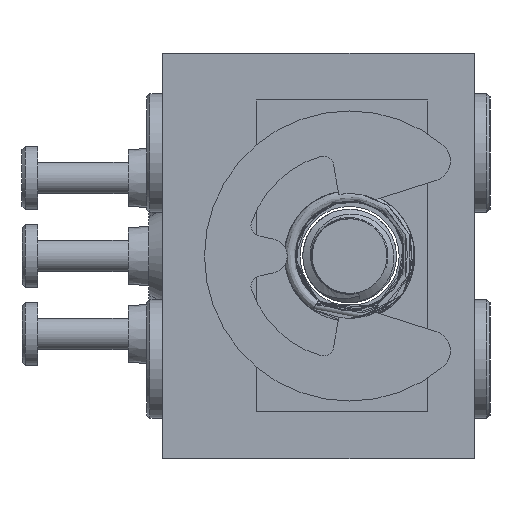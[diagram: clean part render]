
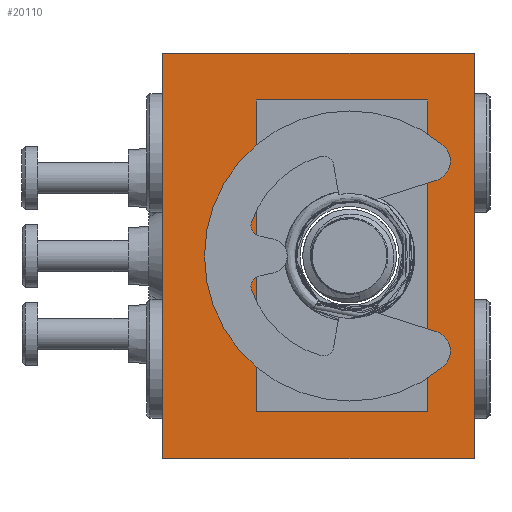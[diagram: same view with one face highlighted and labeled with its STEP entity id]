
A CAD part, left-side view. The second image highlights one B-rep face of the part: STEP entity #20110.
In plain terms, the highlighted planar face has unit normal (-1, 0, 0).
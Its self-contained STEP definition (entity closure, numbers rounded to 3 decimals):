
#83 = ORIENTED_EDGE ( 'NONE', *, *, #4930, .F. ) ;
#859 = ORIENTED_EDGE ( 'NONE', *, *, #24355, .F. ) ;
#909 = EDGE_CURVE ( 'NONE', #1685, #18141, #12219, .T. ) ;
#1685 = VERTEX_POINT ( 'NONE', #15033 ) ;
#2139 = CARTESIAN_POINT ( 'NONE',  ( -19., -5., 6.5 ) ) ;
#2442 = EDGE_CURVE ( 'NONE', #1685, #29832, #3347, .T. ) ;
#3161 = CARTESIAN_POINT ( 'NONE',  ( -19., 2., -5. ) ) ;
#3347 = LINE ( 'NONE', #26188, #28262 ) ;
#3404 = AXIS2_PLACEMENT_3D ( 'NONE', #9970, #26786, #12390 ) ;
#3637 = LINE ( 'NONE', #25446, #15775 ) ;
#3684 = VECTOR ( 'NONE', #26944, 1000. ) ;
#4173 = VECTOR ( 'NONE', #14702, 1000. ) ;
#4299 = ORIENTED_EDGE ( 'NONE', *, *, #909, .T. ) ;
#4930 = EDGE_CURVE ( 'NONE', #29786, #17416, #3637, .T. ) ;
#5197 = VERTEX_POINT ( 'NONE', #13870 ) ;
#5216 = CARTESIAN_POINT ( 'NONE',  ( -19., 2., 5. ) ) ;
#5473 = EDGE_LOOP ( 'NONE', ( #30637, #11542, #17180, #4299 ) ) ;
#5993 = DIRECTION ( 'NONE',  ( 0., 0., -1. ) ) ;
#6020 = VECTOR ( 'NONE', #26615, 1000. ) ;
#6546 = CARTESIAN_POINT ( 'NONE',  ( -19., 5., 6.5 ) ) ;
#7391 = ORIENTED_EDGE ( 'NONE', *, *, #26961, .F. ) ;
#7477 = VERTEX_POINT ( 'NONE', #11066 ) ;
#9970 = CARTESIAN_POINT ( 'NONE',  ( -19., 5., 6.5 ) ) ;
#10031 = EDGE_CURVE ( 'NONE', #31027, #29786, #10194, .T. ) ;
#10172 = LINE ( 'NONE', #17607, #22212 ) ;
#10194 = LINE ( 'NONE', #5216, #3684 ) ;
#11066 = CARTESIAN_POINT ( 'NONE',  ( -19., -3.5, -5. ) ) ;
#11542 = ORIENTED_EDGE ( 'NONE', *, *, #13853, .F. ) ;
#12219 = LINE ( 'NONE', #6546, #17835 ) ;
#12390 = DIRECTION ( 'NONE',  ( 0., 1., 0. ) ) ;
#13853 = EDGE_CURVE ( 'NONE', #29832, #5197, #16429, .T. ) ;
#13870 = CARTESIAN_POINT ( 'NONE',  ( -19., -5., -6.5 ) ) ;
#14194 = DIRECTION ( 'NONE',  ( 0., -1., 0. ) ) ;
#14702 = DIRECTION ( 'NONE',  ( 0., -1., 0. ) ) ;
#15033 = CARTESIAN_POINT ( 'NONE',  ( -19., 5., 6.5 ) ) ;
#15306 = EDGE_CURVE ( 'NONE', #18141, #5197, #22682, .T. ) ;
#15775 = VECTOR ( 'NONE', #18961, 1000. ) ;
#16429 = LINE ( 'NONE', #2139, #29176 ) ;
#17180 = ORIENTED_EDGE ( 'NONE', *, *, #2442, .F. ) ;
#17416 = VERTEX_POINT ( 'NONE', #3161 ) ;
#17607 = CARTESIAN_POINT ( 'NONE',  ( -19., 2., -5. ) ) ;
#17835 = VECTOR ( 'NONE', #5993, 1000. ) ;
#18141 = VERTEX_POINT ( 'NONE', #18913 ) ;
#18913 = CARTESIAN_POINT ( 'NONE',  ( -19., 5., -6.5 ) ) ;
#18961 = DIRECTION ( 'NONE',  ( 0., 0., -1. ) ) ;
#19117 = DIRECTION ( 'NONE',  ( 0., 0., -1. ) ) ;
#19274 = CARTESIAN_POINT ( 'NONE',  ( -19., -3.5, -5. ) ) ;
#19344 = PLANE ( 'NONE',  #3404 ) ;
#20016 = DIRECTION ( 'NONE',  ( 0., -1., 0. ) ) ;
#20110 = ADVANCED_FACE ( 'NONE', ( #29159, #22783 ), #19344, .F. ) ;
#22212 = VECTOR ( 'NONE', #20016, 1000. ) ;
#22682 = LINE ( 'NONE', #29066, #4173 ) ;
#22783 = FACE_OUTER_BOUND ( 'NONE', #5473, .T. ) ;
#24155 = CARTESIAN_POINT ( 'NONE',  ( -19., -5., 6.5 ) ) ;
#24355 = EDGE_CURVE ( 'NONE', #17416, #7477, #10172, .T. ) ;
#25059 = ORIENTED_EDGE ( 'NONE', *, *, #10031, .F. ) ;
#25446 = CARTESIAN_POINT ( 'NONE',  ( -19., 2., -5. ) ) ;
#26071 = LINE ( 'NONE', #19274, #6020 ) ;
#26188 = CARTESIAN_POINT ( 'NONE',  ( -19., 5., 6.5 ) ) ;
#26364 = CARTESIAN_POINT ( 'NONE',  ( -19., 2., 5. ) ) ;
#26507 = CARTESIAN_POINT ( 'NONE',  ( -19., -3.5, 5. ) ) ;
#26615 = DIRECTION ( 'NONE',  ( 0., 0., 1. ) ) ;
#26786 = DIRECTION ( 'NONE',  ( 1., 0., 0. ) ) ;
#26944 = DIRECTION ( 'NONE',  ( 0., 1., 0. ) ) ;
#26961 = EDGE_CURVE ( 'NONE', #7477, #31027, #26071, .T. ) ;
#27445 = EDGE_LOOP ( 'NONE', ( #7391, #859, #83, #25059 ) ) ;
#28262 = VECTOR ( 'NONE', #14194, 1000. ) ;
#29066 = CARTESIAN_POINT ( 'NONE',  ( -19., 5., -6.5 ) ) ;
#29159 = FACE_BOUND ( 'NONE', #27445, .T. ) ;
#29176 = VECTOR ( 'NONE', #19117, 1000. ) ;
#29786 = VERTEX_POINT ( 'NONE', #26364 ) ;
#29832 = VERTEX_POINT ( 'NONE', #24155 ) ;
#30637 = ORIENTED_EDGE ( 'NONE', *, *, #15306, .T. ) ;
#31027 = VERTEX_POINT ( 'NONE', #26507 ) ;
